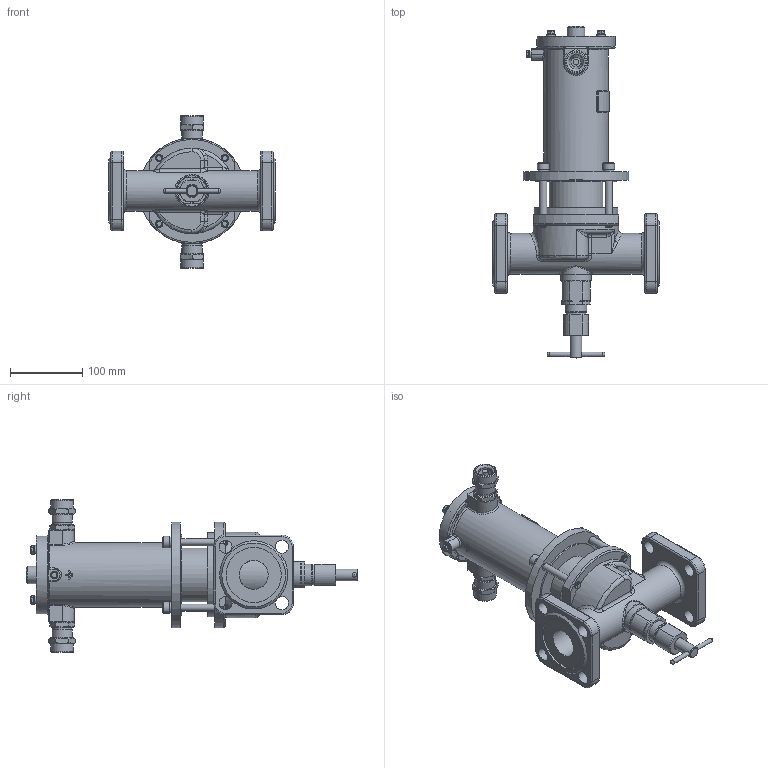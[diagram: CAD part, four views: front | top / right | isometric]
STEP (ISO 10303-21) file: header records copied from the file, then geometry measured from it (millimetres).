
FILE_DESCRIPTION(('STEP AP203'), '1');
FILE_NAME('ÑÅÍÑ DN40PN25-Â-ÑÂ.stp', '2018-09-19T08:43:13', ('Îðëîâ Å.Â.'), ('ÎÎÎ ÍÏÏ Ñåíñîð'), 'ASCON STEP Converter 1.3', 'Kompas 3D', '');
FILE_SCHEMA(('CONFIG_CONTROL_DESIGN','SUPPORT_RESOURCE_SCHEMA'));
Length unit declared in the file: millimetre
Products named in the file (1): 39
Bounding box: 230 x 458.5 x 211 mm (x, y, z)
Volume: 1703299.4 mm3; surface area: 433665.8 mm2
Topology: 2 solids, 19 shells, 1988 faces, 5265 edges, 3398 vertices
Faces by surface type: cylinder 1013, plane 730, cone 128, torus 50, bspline 47, extrusion 16, sphere 4
Full cylindrical faces by diameter (mm): 3.5 x2, 4.134 x1, 4.917 x4, 5 x1, 6 x10, 6.5 x4, 8 x8, 8.2 x1, 10 x9, 11 x5, 12 x4, 13 x2, 16 x6, 17 x2, 18 x9, 20 x5, 22 x2, 22.376 x2, 23 x1, 23.5 x2, 24 x3, 24.5 x2, 26 x4, 26.376 x2, 27.8 x1, 28 x3, 28.5 x2, 30 x2, 31 x2, 40 x2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
Entity records: 77092 total; most frequent: CARTESIAN_POINT 26659, DIRECTION 10951, ORIENTED_EDGE 10472, EDGE_CURVE 5236, AXIS2_PLACEMENT_3D 4208, VERTEX_POINT 3398, VECTOR 2535, LINE 2519
